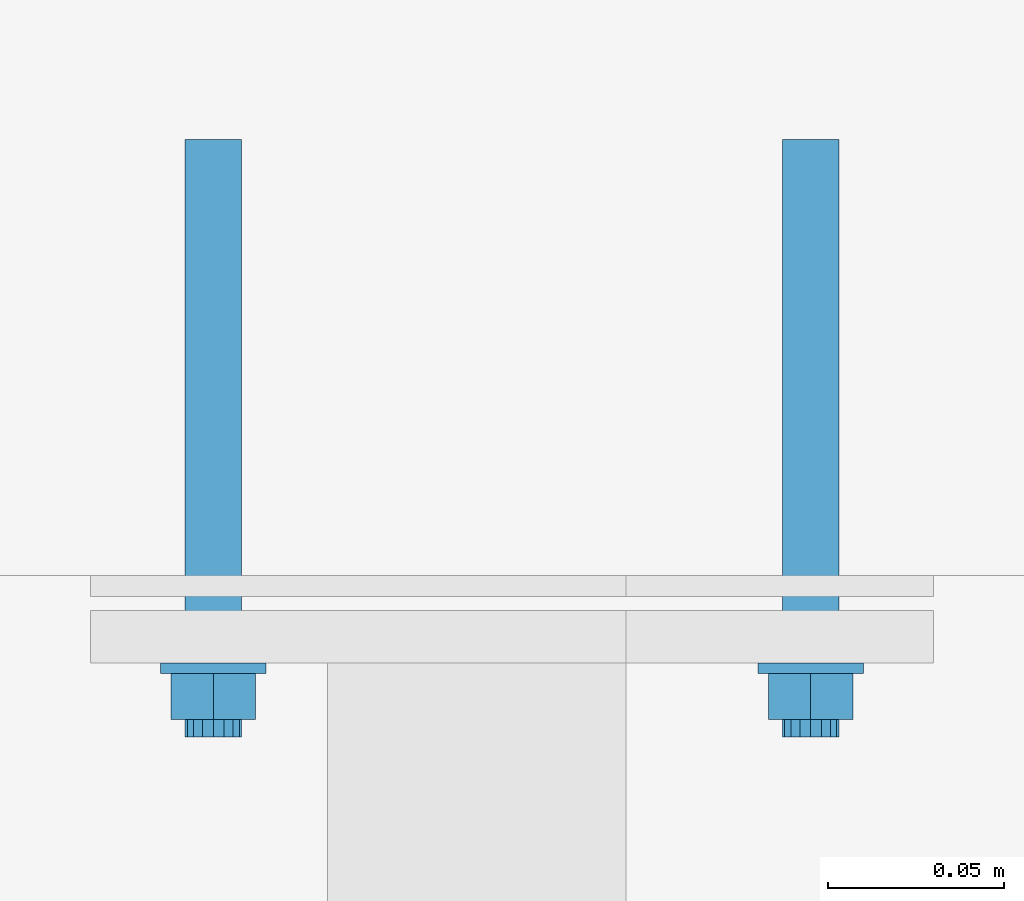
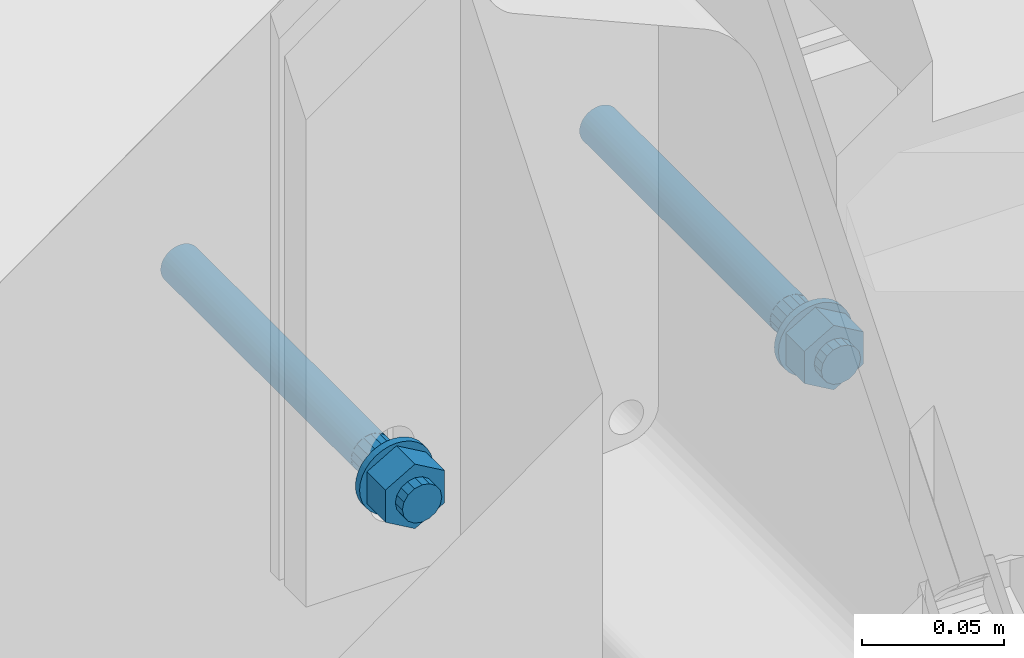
# One storey, part 34 of 145: 1 mechanical fastener.
"""IFC2X3 building model written with IfcOpenShell, lengths in millimetres."""

from ifc_helpers import new_model, entity, si_unit, converted_unit, origin_with_axes, place, context, project, spatial, faceted_brep, element, save


model = new_model("IFC2X3")

# Units and contexts
model_context = context("Model", 3, precision=1e-09, world=origin_with_axes())
ifc_project = project(units=[si_unit("LENGTHUNIT", "METRE", prefix="MILLI"), si_unit("AREAUNIT", "SQUARE_METRE"), si_unit("VOLUMEUNIT", "CUBIC_METRE"), converted_unit("PLANEANGLEUNIT", "DEGREE", entity("IfcPlaneAngleMeasure", 0.01745329), si_unit("PLANEANGLEUNIT", "RADIAN"), dimensions=[0, 0, 0, 0, 0, 0, 0])], contexts=[model_context])

# Site, building, storey
site_placement = place(None, origin_with_axes())
site = spatial("IfcSite", under=ifc_project, at=site_placement, Name="BZ1 Grund- und Mittelschule 85716 Unterschlei?heim", CompositionType="ELEMENT")
building_placement = place(site_placement, origin_with_axes())
building = spatial("IfcBuilding", under=site, at=building_placement, Name="Struktur 1", CompositionType="ELEMENT")
storey_placement = place(building_placement, origin_with_axes())
storey = spatial("IfcBuildingStorey", under=building, at=storey_placement, Name="Default Storey", CompositionType="ELEMENT", Elevation=0.0)

# Mechanical fastener
mechanical_fastener_placement = place(None, origin_with_axes())
element("IfcMechanicalFastener", 1, at=mechanical_fastener_placement, inside=storey, ObjectType="-", NominalDiameter=16.0, NominalLength=170.0, context=model_context, shape_type="Brep", body=[
    faceted_brep([(15808.34372732, -28.0, 3094.9990004), (15808.34372732, -25.0, 3094.9990004), (15808.631948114, -25.0, 3092.07264557), (15808.631948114, -28.0, 3092.07264557), (15809.485534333, -25.0, 3089.258748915), (15809.485534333, -28.0, 3089.258748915), (15810.871683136, -25.0, 3086.665446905), (15810.871683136, -28.0, 3086.665446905), (15812.737125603, -25.0, 3084.392398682), (15812.737125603, -28.0, 3084.392398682), (15815.010173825, -25.0, 3082.526956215), (15815.010173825, -28.0, 3082.526956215), (15817.603475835, -25.0, 3081.140807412), (15817.603475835, -28.0, 3081.140807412), (15820.41737249, -25.0, 3080.287221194), (15820.41737249, -28.0, 3080.287221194), (15823.34372732, -25.0, 3079.9990004), (15823.34372732, -28.0, 3079.9990004), (15826.270082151, -25.0, 3080.287221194), (15826.270082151, -28.0, 3080.287221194), (15829.083978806, -25.0, 3081.140807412), (15829.083978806, -28.0, 3081.140807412), (15831.677280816, -25.0, 3082.526956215), (15831.677280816, -28.0, 3082.526956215), (15833.950329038, -25.0, 3084.392398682), (15833.950329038, -28.0, 3084.392398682), (15835.815771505, -25.0, 3086.665446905), (15835.815771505, -28.0, 3086.665446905), (15837.201920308, -25.0, 3089.258748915), (15837.201920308, -28.0, 3089.258748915), (15838.055506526, -25.0, 3092.07264557), (15838.055506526, -28.0, 3092.07264557), (15838.34372732, -25.0, 3094.9990004), (15838.34372732, -28.0, 3094.9990004), (15838.055506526, -25.0, 3097.92535523), (15838.055506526, -28.0, 3097.92535523), (15837.201920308, -25.0, 3100.739251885), (15837.201920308, -28.0, 3100.739251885), (15835.815771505, -25.0, 3103.332553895), (15835.815771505, -28.0, 3103.332553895), (15833.950329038, -25.0, 3105.605602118), (15833.950329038, -28.0, 3105.605602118), (15831.677280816, -25.0, 3107.471044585), (15831.677280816, -28.0, 3107.471044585), (15829.083978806, -25.0, 3108.857193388), (15829.083978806, -28.0, 3108.857193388), (15826.270082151, -25.0, 3109.710779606), (15826.270082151, -28.0, 3109.710779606), (15823.34372732, -25.0, 3109.9990004), (15823.34372732, -28.0, 3109.9990004), (15820.41737249, -25.0, 3109.710779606), (15820.41737249, -28.0, 3109.710779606), (15817.603475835, -25.0, 3108.857193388), (15817.603475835, -28.0, 3108.857193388), (15815.010173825, -25.0, 3107.471044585), (15815.010173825, -28.0, 3107.471044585), (15812.737125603, -25.0, 3105.605602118), (15812.737125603, -28.0, 3105.605602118), (15810.871683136, -25.0, 3103.332553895), (15810.871683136, -28.0, 3103.332553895), (15809.485534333, -25.0, 3100.739251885), (15809.485534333, -28.0, 3100.739251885), (15808.631948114, -25.0, 3097.92535523), (15808.631948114, -28.0, 3097.92535523)], [[[0, 1, 2, 3]], [[3, 2, 4, 5]], [[5, 4, 6, 7]], [[7, 6, 8, 9]], [[9, 8, 10, 11]], [[11, 10, 12, 13]], [[13, 12, 14, 15]], [[15, 14, 16, 17]], [[17, 16, 18, 19]], [[19, 18, 20, 21]], [[21, 20, 22, 23]], [[23, 22, 24, 25]], [[25, 24, 26, 27]], [[27, 26, 28, 29]], [[29, 28, 30, 31]], [[31, 30, 32, 33]], [[33, 32, 34, 35]], [[35, 34, 36, 37]], [[37, 36, 38, 39]], [[39, 38, 40, 41]], [[41, 40, 42, 43]], [[43, 42, 44, 45]], [[45, 44, 46, 47]], [[47, 46, 48, 49]], [[49, 48, 50, 51]], [[51, 50, 52, 53]], [[53, 52, 54, 55]], [[55, 54, 56, 57]], [[57, 56, 58, 59]], [[59, 58, 60, 61]], [[61, 60, 62, 63]], [[63, 62, 1, 0]], [[0, 3, 5, 7, 9, 11, 13, 15, 17, 19, 21, 23, 25, 27, 29, 31, 33, 35, 37, 39, 41, 43, 45, 47, 49, 51, 53, 55, 57, 59, 61, 63]], [[1, 62, 60, 58, 56, 54, 52, 50, 48, 46, 44, 42, 40, 38, 36, 34, 32, 30, 28, 26, 24, 22, 20, 18, 16, 14, 12, 10, 8, 6, 4, 2]]]),
    faceted_brep([(15638.34372732, -28.0, 3094.9990004), (15638.34372732, -25.0, 3094.9990004), (15638.631948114, -25.0, 3092.07264557), (15638.631948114, -28.0, 3092.07264557), (15639.485534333, -25.0, 3089.258748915), (15639.485534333, -28.0, 3089.258748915), (15640.871683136, -25.0, 3086.665446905), (15640.871683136, -28.0, 3086.665446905), (15642.737125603, -25.0, 3084.392398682), (15642.737125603, -28.0, 3084.392398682), (15645.010173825, -25.0, 3082.526956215), (15645.010173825, -28.0, 3082.526956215), (15647.603475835, -25.0, 3081.140807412), (15647.603475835, -28.0, 3081.140807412), (15650.41737249, -25.0, 3080.287221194), (15650.41737249, -28.0, 3080.287221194), (15653.34372732, -25.0, 3079.9990004), (15653.34372732, -28.0, 3079.9990004), (15656.270082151, -25.0, 3080.287221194), (15656.270082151, -28.0, 3080.287221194), (15659.083978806, -25.0, 3081.140807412), (15659.083978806, -28.0, 3081.140807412), (15661.677280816, -25.0, 3082.526956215), (15661.677280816, -28.0, 3082.526956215), (15663.950329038, -25.0, 3084.392398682), (15663.950329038, -28.0, 3084.392398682), (15665.815771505, -25.0, 3086.665446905), (15665.815771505, -28.0, 3086.665446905), (15667.201920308, -25.0, 3089.258748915), (15667.201920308, -28.0, 3089.258748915), (15668.055506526, -25.0, 3092.07264557), (15668.055506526, -28.0, 3092.07264557), (15668.34372732, -25.0, 3094.9990004), (15668.34372732, -28.0, 3094.9990004), (15668.055506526, -25.0, 3097.92535523), (15668.055506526, -28.0, 3097.92535523), (15667.201920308, -25.0, 3100.739251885), (15667.201920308, -28.0, 3100.739251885), (15665.815771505, -25.0, 3103.332553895), (15665.815771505, -28.0, 3103.332553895), (15663.950329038, -25.0, 3105.605602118), (15663.950329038, -28.0, 3105.605602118), (15661.677280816, -25.0, 3107.471044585), (15661.677280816, -28.0, 3107.471044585), (15659.083978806, -25.0, 3108.857193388), (15659.083978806, -28.0, 3108.857193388), (15656.270082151, -25.0, 3109.710779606), (15656.270082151, -28.0, 3109.710779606), (15653.34372732, -25.0, 3109.9990004), (15653.34372732, -28.0, 3109.9990004), (15650.41737249, -25.0, 3109.710779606), (15650.41737249, -28.0, 3109.710779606), (15647.603475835, -25.0, 3108.857193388), (15647.603475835, -28.0, 3108.857193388), (15645.010173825, -25.0, 3107.471044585), (15645.010173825, -28.0, 3107.471044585), (15642.737125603, -25.0, 3105.605602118), (15642.737125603, -28.0, 3105.605602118), (15640.871683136, -25.0, 3103.332553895), (15640.871683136, -28.0, 3103.332553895), (15639.485534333, -25.0, 3100.739251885), (15639.485534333, -28.0, 3100.739251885), (15638.631948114, -25.0, 3097.92535523), (15638.631948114, -28.0, 3097.92535523)], [[[0, 1, 2, 3]], [[3, 2, 4, 5]], [[5, 4, 6, 7]], [[7, 6, 8, 9]], [[9, 8, 10, 11]], [[11, 10, 12, 13]], [[13, 12, 14, 15]], [[15, 14, 16, 17]], [[17, 16, 18, 19]], [[19, 18, 20, 21]], [[21, 20, 22, 23]], [[23, 22, 24, 25]], [[25, 24, 26, 27]], [[27, 26, 28, 29]], [[29, 28, 30, 31]], [[31, 30, 32, 33]], [[33, 32, 34, 35]], [[35, 34, 36, 37]], [[37, 36, 38, 39]], [[39, 38, 40, 41]], [[41, 40, 42, 43]], [[43, 42, 44, 45]], [[45, 44, 46, 47]], [[47, 46, 48, 49]], [[49, 48, 50, 51]], [[51, 50, 52, 53]], [[53, 52, 54, 55]], [[55, 54, 56, 57]], [[57, 56, 58, 59]], [[59, 58, 60, 61]], [[61, 60, 62, 63]], [[63, 62, 1, 0]], [[0, 3, 5, 7, 9, 11, 13, 15, 17, 19, 21, 23, 25, 27, 29, 31, 33, 35, 37, 39, 41, 43, 45, 47, 49, 51, 53, 55, 57, 59, 61, 63]], [[1, 62, 60, 58, 56, 54, 52, 50, 48, 46, 44, 42, 40, 38, 36, 34, 32, 30, 28, 26, 24, 22, 20, 18, 16, 14, 12, 10, 8, 6, 4, 2]]]),
    faceted_brep([(15835.338179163, -28.0, 3088.0740004), (15835.338179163, -41.0, 3088.0740004), (15823.34372732, -41.0, 3081.1490004), (15823.34372732, -28.0, 3081.1490004), (15811.349275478, -41.0, 3088.0740004), (15811.349275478, -28.0, 3088.0740004), (15811.349275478, -41.0, 3101.9240004), (15811.349275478, -28.0, 3101.9240004), (15823.34372732, -41.0, 3108.8490004), (15823.34372732, -28.0, 3108.8490004), (15835.338179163, -41.0, 3101.9240004), (15835.338179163, -28.0, 3101.9240004)], [[[0, 1, 2, 3]], [[3, 2, 4, 5]], [[5, 4, 6, 7]], [[7, 6, 8, 9]], [[9, 8, 10, 11]], [[11, 10, 1, 0]], [[4, 2, 1, 10, 8, 6]], [[0, 3, 5, 7, 9, 11]]]),
    faceted_brep([(15665.338179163, -28.0, 3088.0740004), (15665.338179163, -41.0, 3088.0740004), (15653.34372732, -41.0, 3081.1490004), (15653.34372732, -28.0, 3081.1490004), (15641.349275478, -41.0, 3088.0740004), (15641.349275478, -28.0, 3088.0740004), (15641.349275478, -41.0, 3101.9240004), (15641.349275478, -28.0, 3101.9240004), (15653.34372732, -41.0, 3108.8490004), (15653.34372732, -28.0, 3108.8490004), (15665.338179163, -41.0, 3101.9240004), (15665.338179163, -28.0, 3101.9240004)], [[[0, 1, 2, 3]], [[3, 2, 4, 5]], [[5, 4, 6, 7]], [[7, 6, 8, 9]], [[9, 8, 10, 11]], [[11, 10, 1, 0]], [[4, 2, 1, 10, 8, 6]], [[0, 3, 5, 7, 9, 11]]]),
    faceted_brep([(15815.34372732, -46.0, 3094.9990004), (15815.34372732, -41.0, 3094.9990004), (15815.95269106, -41.0, 3091.937532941), (15815.95269106, -46.0, 3091.937532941), (15817.686873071, -41.0, 3089.342146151), (15817.686873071, -46.0, 3089.342146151), (15820.282259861, -41.0, 3087.60796414), (15820.282259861, -46.0, 3087.60796414), (15823.34372732, -41.0, 3086.9990004), (15823.34372732, -46.0, 3086.9990004), (15826.405194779, -41.0, 3087.60796414), (15826.405194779, -46.0, 3087.60796414), (15829.00058157, -41.0, 3089.342146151), (15829.00058157, -46.0, 3089.342146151), (15830.73476358, -41.0, 3091.937532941), (15830.73476358, -46.0, 3091.937532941), (15831.34372732, -41.0, 3094.9990004), (15831.34372732, -46.0, 3094.9990004), (15830.73476358, -41.0, 3098.060467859), (15830.73476358, -46.0, 3098.060467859), (15829.00058157, -41.0, 3100.655854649), (15829.00058157, -46.0, 3100.655854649), (15826.405194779, -41.0, 3102.39003666), (15826.405194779, -46.0, 3102.39003666), (15823.34372732, -41.0, 3102.9990004), (15823.34372732, -46.0, 3102.9990004), (15820.282259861, -41.0, 3102.39003666), (15820.282259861, -46.0, 3102.39003666), (15817.686873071, -41.0, 3100.655854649), (15817.686873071, -46.0, 3100.655854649), (15815.95269106, -41.0, 3098.060467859), (15815.95269106, -46.0, 3098.060467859)], [[[0, 1, 2, 3]], [[3, 2, 4, 5]], [[5, 4, 6, 7]], [[7, 6, 8, 9]], [[9, 8, 10, 11]], [[11, 10, 12, 13]], [[13, 12, 14, 15]], [[15, 14, 16, 17]], [[17, 16, 18, 19]], [[19, 18, 20, 21]], [[21, 20, 22, 23]], [[23, 22, 24, 25]], [[25, 24, 26, 27]], [[27, 26, 28, 29]], [[29, 28, 30, 31]], [[31, 30, 1, 0]], [[0, 3, 5, 7, 9, 11, 13, 15, 17, 19, 21, 23, 25, 27, 29, 31]], [[1, 30, 28, 26, 24, 22, 20, 18, 16, 14, 12, 10, 8, 6, 4, 2]]]),
    faceted_brep([(15645.34372732, -46.0, 3094.9990004), (15645.34372732, -41.0, 3094.9990004), (15645.95269106, -41.0, 3091.937532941), (15645.95269106, -46.0, 3091.937532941), (15647.686873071, -41.0, 3089.342146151), (15647.686873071, -46.0, 3089.342146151), (15650.282259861, -41.0, 3087.60796414), (15650.282259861, -46.0, 3087.60796414), (15653.34372732, -41.0, 3086.9990004), (15653.34372732, -46.0, 3086.9990004), (15656.405194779, -41.0, 3087.60796414), (15656.405194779, -46.0, 3087.60796414), (15659.00058157, -41.0, 3089.342146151), (15659.00058157, -46.0, 3089.342146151), (15660.73476358, -41.0, 3091.937532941), (15660.73476358, -46.0, 3091.937532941), (15661.34372732, -41.0, 3094.9990004), (15661.34372732, -46.0, 3094.9990004), (15660.73476358, -41.0, 3098.060467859), (15660.73476358, -46.0, 3098.060467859), (15659.00058157, -41.0, 3100.655854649), (15659.00058157, -46.0, 3100.655854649), (15656.405194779, -41.0, 3102.39003666), (15656.405194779, -46.0, 3102.39003666), (15653.34372732, -41.0, 3102.9990004), (15653.34372732, -46.0, 3102.9990004), (15650.282259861, -41.0, 3102.39003666), (15650.282259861, -46.0, 3102.39003666), (15647.686873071, -41.0, 3100.655854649), (15647.686873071, -46.0, 3100.655854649), (15645.95269106, -41.0, 3098.060467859), (15645.95269106, -46.0, 3098.060467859)], [[[0, 1, 2, 3]], [[3, 2, 4, 5]], [[5, 4, 6, 7]], [[7, 6, 8, 9]], [[9, 8, 10, 11]], [[11, 10, 12, 13]], [[13, 12, 14, 15]], [[15, 14, 16, 17]], [[17, 16, 18, 19]], [[19, 18, 20, 21]], [[21, 20, 22, 23]], [[23, 22, 24, 25]], [[25, 24, 26, 27]], [[27, 26, 28, 29]], [[29, 28, 30, 31]], [[31, 30, 1, 0]], [[0, 3, 5, 7, 9, 11, 13, 15, 17, 19, 21, 23, 25, 27, 29, 31]], [[1, 30, 28, 26, 24, 22, 20, 18, 16, 14, 12, 10, 8, 6, 4, 2]]]),
    faceted_brep([(15815.34372732, -25.0, 3094.9990004), (15815.34372732, -10.0, 3094.9990004), (15815.95269106, -10.0, 3091.937532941), (15815.95269106, -25.0, 3091.937532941), (15817.686873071, -10.0, 3089.342146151), (15817.686873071, -25.0, 3089.342146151), (15820.282259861, -10.0, 3087.60796414), (15820.282259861, -25.0, 3087.60796414), (15823.34372732, -10.0, 3086.9990004), (15823.34372732, -25.0, 3086.9990004), (15826.405194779, -10.0, 3087.60796414), (15826.405194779, -25.0, 3087.60796414), (15829.00058157, -10.0, 3089.342146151), (15829.00058157, -25.0, 3089.342146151), (15830.73476358, -10.0, 3091.937532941), (15830.73476358, -25.0, 3091.937532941), (15831.34372732, -10.0, 3094.9990004), (15831.34372732, -25.0, 3094.9990004), (15830.73476358, -10.0, 3098.060467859), (15830.73476358, -25.0, 3098.060467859), (15829.00058157, -10.0, 3100.655854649), (15829.00058157, -25.0, 3100.655854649), (15826.405194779, -10.0, 3102.39003666), (15826.405194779, -25.0, 3102.39003666), (15823.34372732, -10.0, 3102.9990004), (15823.34372732, -25.0, 3102.9990004), (15820.282259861, -10.0, 3102.39003666), (15820.282259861, -25.0, 3102.39003666), (15817.686873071, -10.0, 3100.655854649), (15817.686873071, -25.0, 3100.655854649), (15815.95269106, -10.0, 3098.060467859), (15815.95269106, -25.0, 3098.060467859)], [[[0, 1, 2, 3]], [[3, 2, 4, 5]], [[5, 4, 6, 7]], [[7, 6, 8, 9]], [[9, 8, 10, 11]], [[11, 10, 12, 13]], [[13, 12, 14, 15]], [[15, 14, 16, 17]], [[17, 16, 18, 19]], [[19, 18, 20, 21]], [[21, 20, 22, 23]], [[23, 22, 24, 25]], [[25, 24, 26, 27]], [[27, 26, 28, 29]], [[29, 28, 30, 31]], [[31, 30, 1, 0]], [[0, 3, 5, 7, 9, 11, 13, 15, 17, 19, 21, 23, 25, 27, 29, 31]], [[1, 30, 28, 26, 24, 22, 20, 18, 16, 14, 12, 10, 8, 6, 4, 2]]]),
    faceted_brep([(15645.34372732, -25.0, 3094.9990004), (15645.34372732, -10.0, 3094.9990004), (15645.95269106, -10.0, 3091.937532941), (15645.95269106, -25.0, 3091.937532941), (15647.686873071, -10.0, 3089.342146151), (15647.686873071, -25.0, 3089.342146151), (15650.282259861, -10.0, 3087.60796414), (15650.282259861, -25.0, 3087.60796414), (15653.34372732, -10.0, 3086.9990004), (15653.34372732, -25.0, 3086.9990004), (15656.405194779, -10.0, 3087.60796414), (15656.405194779, -25.0, 3087.60796414), (15659.00058157, -10.0, 3089.342146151), (15659.00058157, -25.0, 3089.342146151), (15660.73476358, -10.0, 3091.937532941), (15660.73476358, -25.0, 3091.937532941), (15661.34372732, -10.0, 3094.9990004), (15661.34372732, -25.0, 3094.9990004), (15660.73476358, -10.0, 3098.060467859), (15660.73476358, -25.0, 3098.060467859), (15659.00058157, -10.0, 3100.655854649), (15659.00058157, -25.0, 3100.655854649), (15656.405194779, -10.0, 3102.39003666), (15656.405194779, -25.0, 3102.39003666), (15653.34372732, -10.0, 3102.9990004), (15653.34372732, -25.0, 3102.9990004), (15650.282259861, -10.0, 3102.39003666), (15650.282259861, -25.0, 3102.39003666), (15647.686873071, -10.0, 3100.655854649), (15647.686873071, -25.0, 3100.655854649), (15645.95269106, -10.0, 3098.060467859), (15645.95269106, -25.0, 3098.060467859)], [[[0, 1, 2, 3]], [[3, 2, 4, 5]], [[5, 4, 6, 7]], [[7, 6, 8, 9]], [[9, 8, 10, 11]], [[11, 10, 12, 13]], [[13, 12, 14, 15]], [[15, 14, 16, 17]], [[17, 16, 18, 19]], [[19, 18, 20, 21]], [[21, 20, 22, 23]], [[23, 22, 24, 25]], [[25, 24, 26, 27]], [[27, 26, 28, 29]], [[29, 28, 30, 31]], [[31, 30, 1, 0]], [[0, 3, 5, 7, 9, 11, 13, 15, 17, 19, 21, 23, 25, 27, 29, 31]], [[1, 30, 28, 26, 24, 22, 20, 18, 16, 14, 12, 10, 8, 6, 4, 2]]]),
    faceted_brep([(15815.34372732, -10.0, 3094.9990004), (15815.34372732, 124.0, 3094.9990004), (15815.497445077, 124.0, 3093.438277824), (15815.497445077, -10.0, 3093.438277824), (15815.95269106, 124.0, 3091.937532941), (15815.95269106, -10.0, 3091.937532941), (15816.691970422, 124.0, 3090.554438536), (15816.691970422, -10.0, 3090.554438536), (15817.686873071, 124.0, 3089.342146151), (15817.686873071, -10.0, 3089.342146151), (15818.899165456, 124.0, 3088.347243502), (15818.899165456, -10.0, 3088.347243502), (15820.282259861, 124.0, 3087.60796414), (15820.282259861, -10.0, 3087.60796414), (15821.783004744, 124.0, 3087.152718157), (15821.783004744, -10.0, 3087.152718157), (15823.34372732, 124.0, 3086.9990004), (15823.34372732, -10.0, 3086.9990004), (15824.904449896, 124.0, 3087.152718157), (15824.904449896, -10.0, 3087.152718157), (15826.405194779, 124.0, 3087.60796414), (15826.405194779, -10.0, 3087.60796414), (15827.788289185, 124.0, 3088.347243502), (15827.788289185, -10.0, 3088.347243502), (15829.00058157, 124.0, 3089.342146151), (15829.00058157, -10.0, 3089.342146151), (15829.995484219, 124.0, 3090.554438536), (15829.995484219, -10.0, 3090.554438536), (15830.73476358, 124.0, 3091.937532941), (15830.73476358, -10.0, 3091.937532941), (15831.190009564, 124.0, 3093.438277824), (15831.190009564, -10.0, 3093.438277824), (15831.34372732, 124.0, 3094.9990004), (15831.34372732, -10.0, 3094.9990004), (15831.190009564, 124.0, 3096.559722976), (15831.190009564, -10.0, 3096.559722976), (15830.73476358, 124.0, 3098.060467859), (15830.73476358, -10.0, 3098.060467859), (15829.995484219, 124.0, 3099.443562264), (15829.995484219, -10.0, 3099.443562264), (15829.00058157, 124.0, 3100.655854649), (15829.00058157, -10.0, 3100.655854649), (15827.788289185, 124.0, 3101.650757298), (15827.788289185, -10.0, 3101.650757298), (15826.405194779, 124.0, 3102.39003666), (15826.405194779, -10.0, 3102.39003666), (15824.904449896, 124.0, 3102.845282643), (15824.904449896, -10.0, 3102.845282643), (15823.34372732, 124.0, 3102.9990004), (15823.34372732, -10.0, 3102.9990004), (15821.783004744, 124.0, 3102.845282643), (15821.783004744, -10.0, 3102.845282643), (15820.282259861, 124.0, 3102.39003666), (15820.282259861, -10.0, 3102.39003666), (15818.899165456, 124.0, 3101.650757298), (15818.899165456, -10.0, 3101.650757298), (15817.686873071, 124.0, 3100.655854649), (15817.686873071, -10.0, 3100.655854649), (15816.691970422, 124.0, 3099.443562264), (15816.691970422, -10.0, 3099.443562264), (15815.95269106, 124.0, 3098.060467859), (15815.95269106, -10.0, 3098.060467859), (15815.497445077, 124.0, 3096.559722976), (15815.497445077, -10.0, 3096.559722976)], [[[0, 1, 2, 3]], [[3, 2, 4, 5]], [[5, 4, 6, 7]], [[7, 6, 8, 9]], [[9, 8, 10, 11]], [[11, 10, 12, 13]], [[13, 12, 14, 15]], [[15, 14, 16, 17]], [[17, 16, 18, 19]], [[19, 18, 20, 21]], [[21, 20, 22, 23]], [[23, 22, 24, 25]], [[25, 24, 26, 27]], [[27, 26, 28, 29]], [[29, 28, 30, 31]], [[31, 30, 32, 33]], [[33, 32, 34, 35]], [[35, 34, 36, 37]], [[37, 36, 38, 39]], [[39, 38, 40, 41]], [[41, 40, 42, 43]], [[43, 42, 44, 45]], [[45, 44, 46, 47]], [[47, 46, 48, 49]], [[49, 48, 50, 51]], [[51, 50, 52, 53]], [[53, 52, 54, 55]], [[55, 54, 56, 57]], [[57, 56, 58, 59]], [[59, 58, 60, 61]], [[61, 60, 62, 63]], [[63, 62, 1, 0]], [[0, 3, 5, 7, 9, 11, 13, 15, 17, 19, 21, 23, 25, 27, 29, 31, 33, 35, 37, 39, 41, 43, 45, 47, 49, 51, 53, 55, 57, 59, 61, 63]], [[1, 62, 60, 58, 56, 54, 52, 50, 48, 46, 44, 42, 40, 38, 36, 34, 32, 30, 28, 26, 24, 22, 20, 18, 16, 14, 12, 10, 8, 6, 4, 2]]]),
    faceted_brep([(15645.34372732, -10.0, 3094.9990004), (15645.34372732, 124.0, 3094.9990004), (15645.497445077, 124.0, 3093.438277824), (15645.497445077, -10.0, 3093.438277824), (15645.95269106, 124.0, 3091.937532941), (15645.95269106, -10.0, 3091.937532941), (15646.691970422, 124.0, 3090.554438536), (15646.691970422, -10.0, 3090.554438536), (15647.686873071, 124.0, 3089.342146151), (15647.686873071, -10.0, 3089.342146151), (15648.899165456, 124.0, 3088.347243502), (15648.899165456, -10.0, 3088.347243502), (15650.282259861, 124.0, 3087.60796414), (15650.282259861, -10.0, 3087.60796414), (15651.783004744, 124.0, 3087.152718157), (15651.783004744, -10.0, 3087.152718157), (15653.34372732, 124.0, 3086.9990004), (15653.34372732, -10.0, 3086.9990004), (15654.904449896, 124.0, 3087.152718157), (15654.904449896, -10.0, 3087.152718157), (15656.405194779, 124.0, 3087.60796414), (15656.405194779, -10.0, 3087.60796414), (15657.788289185, 124.0, 3088.347243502), (15657.788289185, -10.0, 3088.347243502), (15659.00058157, 124.0, 3089.342146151), (15659.00058157, -10.0, 3089.342146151), (15659.995484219, 124.0, 3090.554438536), (15659.995484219, -10.0, 3090.554438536), (15660.73476358, 124.0, 3091.937532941), (15660.73476358, -10.0, 3091.937532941), (15661.190009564, 124.0, 3093.438277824), (15661.190009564, -10.0, 3093.438277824), (15661.34372732, 124.0, 3094.9990004), (15661.34372732, -10.0, 3094.9990004), (15661.190009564, 124.0, 3096.559722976), (15661.190009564, -10.0, 3096.559722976), (15660.73476358, 124.0, 3098.060467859), (15660.73476358, -10.0, 3098.060467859), (15659.995484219, 124.0, 3099.443562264), (15659.995484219, -10.0, 3099.443562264), (15659.00058157, 124.0, 3100.655854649), (15659.00058157, -10.0, 3100.655854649), (15657.788289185, 124.0, 3101.650757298), (15657.788289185, -10.0, 3101.650757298), (15656.405194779, 124.0, 3102.39003666), (15656.405194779, -10.0, 3102.39003666), (15654.904449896, 124.0, 3102.845282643), (15654.904449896, -10.0, 3102.845282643), (15653.34372732, 124.0, 3102.9990004), (15653.34372732, -10.0, 3102.9990004), (15651.783004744, 124.0, 3102.845282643), (15651.783004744, -10.0, 3102.845282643), (15650.282259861, 124.0, 3102.39003666), (15650.282259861, -10.0, 3102.39003666), (15648.899165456, 124.0, 3101.650757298), (15648.899165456, -10.0, 3101.650757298), (15647.686873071, 124.0, 3100.655854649), (15647.686873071, -10.0, 3100.655854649), (15646.691970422, 124.0, 3099.443562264), (15646.691970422, -10.0, 3099.443562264), (15645.95269106, 124.0, 3098.060467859), (15645.95269106, -10.0, 3098.060467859), (15645.497445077, 124.0, 3096.559722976), (15645.497445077, -10.0, 3096.559722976)], [[[0, 1, 2, 3]], [[3, 2, 4, 5]], [[5, 4, 6, 7]], [[7, 6, 8, 9]], [[9, 8, 10, 11]], [[11, 10, 12, 13]], [[13, 12, 14, 15]], [[15, 14, 16, 17]], [[17, 16, 18, 19]], [[19, 18, 20, 21]], [[21, 20, 22, 23]], [[23, 22, 24, 25]], [[25, 24, 26, 27]], [[27, 26, 28, 29]], [[29, 28, 30, 31]], [[31, 30, 32, 33]], [[33, 32, 34, 35]], [[35, 34, 36, 37]], [[37, 36, 38, 39]], [[39, 38, 40, 41]], [[41, 40, 42, 43]], [[43, 42, 44, 45]], [[45, 44, 46, 47]], [[47, 46, 48, 49]], [[49, 48, 50, 51]], [[51, 50, 52, 53]], [[53, 52, 54, 55]], [[55, 54, 56, 57]], [[57, 56, 58, 59]], [[59, 58, 60, 61]], [[61, 60, 62, 63]], [[63, 62, 1, 0]], [[0, 3, 5, 7, 9, 11, 13, 15, 17, 19, 21, 23, 25, 27, 29, 31, 33, 35, 37, 39, 41, 43, 45, 47, 49, 51, 53, 55, 57, 59, 61, 63]], [[1, 62, 60, 58, 56, 54, 52, 50, 48, 46, 44, 42, 40, 38, 36, 34, 32, 30, 28, 26, 24, 22, 20, 18, 16, 14, 12, 10, 8, 6, 4, 2]]]),
])

save(model, "model.ifc")
